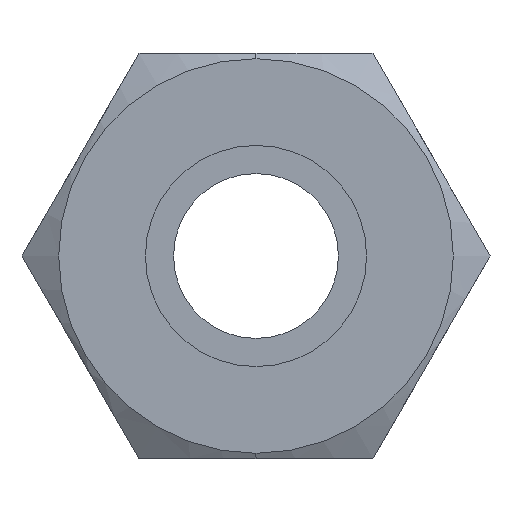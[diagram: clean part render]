
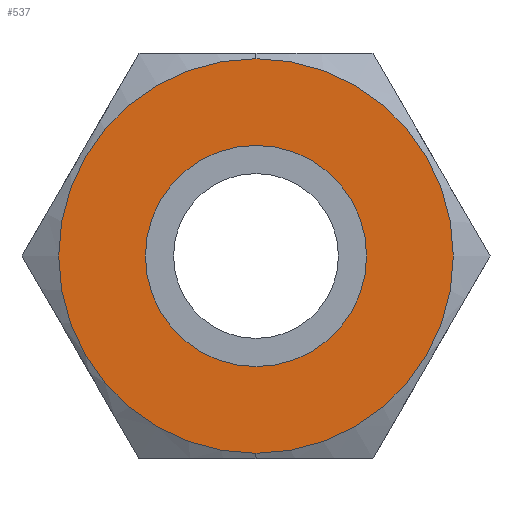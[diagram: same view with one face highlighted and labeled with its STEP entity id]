
A CAD part, left-side view. The second image highlights one B-rep face of the part: STEP entity #537.
In plain terms, the highlighted planar face has unit normal (-1, 0, 0).
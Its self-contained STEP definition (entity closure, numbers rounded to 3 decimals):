
#80 = VERTEX_POINT ( 'NONE', #1009 ) ;
#289 = EDGE_CURVE ( 'NONE', #346, #80, #1148, .T. ) ;
#346 = VERTEX_POINT ( 'NONE', #1467 ) ;
#510 = VERTEX_POINT ( 'NONE', #1884 ) ;
#512 = EDGE_CURVE ( 'NONE', #513, #510, #1867, .T. ) ;
#513 = VERTEX_POINT ( 'NONE', #1862 ) ;
#537 = ADVANCED_FACE ( 'NONE', ( #1807, #1806 ), #1811, .T. ) ;
#538 = EDGE_LOOP ( 'NONE', ( #539, #541 ) ) ;
#539 = ORIENTED_EDGE ( 'NONE', *, *, #540, .F. ) ;
#540 = EDGE_CURVE ( 'NONE', #80, #346, #1800, .T. ) ;
#541 = ORIENTED_EDGE ( 'NONE', *, *, #289, .F. ) ;
#542 = EDGE_LOOP ( 'NONE', ( #604, #543 ) ) ;
#543 = ORIENTED_EDGE ( 'NONE', *, *, #643, .T. ) ;
#604 = ORIENTED_EDGE ( 'NONE', *, *, #512, .T. ) ;
#643 = EDGE_CURVE ( 'NONE', #510, #513, #2069, .T. ) ;
#1009 = CARTESIAN_POINT ( 'NONE',  ( -19.36, 0., 4.765 ) ) ;
#1135 = DIRECTION ( 'NONE',  ( 0., 0., 1. ) ) ;
#1136 = DIRECTION ( 'NONE',  ( -1., 0., 0. ) ) ;
#1137 = CARTESIAN_POINT ( 'NONE',  ( -19.36, 0., 0. ) ) ;
#1147 = AXIS2_PLACEMENT_3D ( 'NONE', #1137, #1136, #1135 ) ;
#1148 = CIRCLE ( 'NONE', #1147, 4.765 ) ;
#1467 = CARTESIAN_POINT ( 'NONE',  ( -19.36, 0., -4.765 ) ) ;
#1799 = AXIS2_PLACEMENT_3D ( 'NONE', #1804, #1831, #1830 ) ;
#1800 = CIRCLE ( 'NONE', #1799, 4.765 ) ;
#1801 = DIRECTION ( 'NONE',  ( 0., 0., 1. ) ) ;
#1802 = DIRECTION ( 'NONE',  ( -1., 0., 0. ) ) ;
#1803 = CARTESIAN_POINT ( 'NONE',  ( -19.36, 10.081, 0. ) ) ;
#1804 = CARTESIAN_POINT ( 'NONE',  ( -19.36, 0., 0. ) ) ;
#1805 = AXIS2_PLACEMENT_3D ( 'NONE', #1803, #1802, #1801 ) ;
#1806 = FACE_OUTER_BOUND ( 'NONE', #542, .T. ) ;
#1807 = FACE_BOUND ( 'NONE', #538, .T. ) ;
#1811 = PLANE ( 'NONE',  #1805 ) ;
#1830 = DIRECTION ( 'NONE',  ( 0., 0., 1. ) ) ;
#1831 = DIRECTION ( 'NONE',  ( -1., 0., 0. ) ) ;
#1862 = CARTESIAN_POINT ( 'NONE',  ( -19.36, 0., 8.5 ) ) ;
#1863 = DIRECTION ( 'NONE',  ( 0., 0., 1. ) ) ;
#1864 = DIRECTION ( 'NONE',  ( -1., 0., 0. ) ) ;
#1865 = CARTESIAN_POINT ( 'NONE',  ( -19.36, 0., 0. ) ) ;
#1866 = AXIS2_PLACEMENT_3D ( 'NONE', #1865, #1864, #1863 ) ;
#1867 = CIRCLE ( 'NONE', #1866, 8.5 ) ;
#1884 = CARTESIAN_POINT ( 'NONE',  ( -19.36, 0., -8.5 ) ) ;
#2066 = DIRECTION ( 'NONE',  ( 0., 0., 1. ) ) ;
#2067 = DIRECTION ( 'NONE',  ( -1., 0., 0. ) ) ;
#2068 = AXIS2_PLACEMENT_3D ( 'NONE', #2071, #2067, #2066 ) ;
#2069 = CIRCLE ( 'NONE', #2068, 8.5 ) ;
#2071 = CARTESIAN_POINT ( 'NONE',  ( -19.36, 0., 0. ) ) ;
